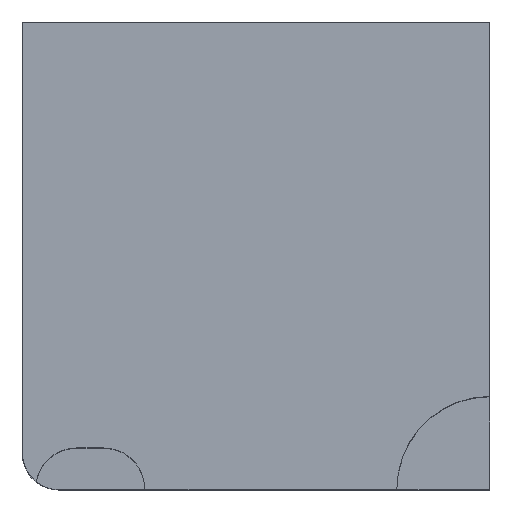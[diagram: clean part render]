
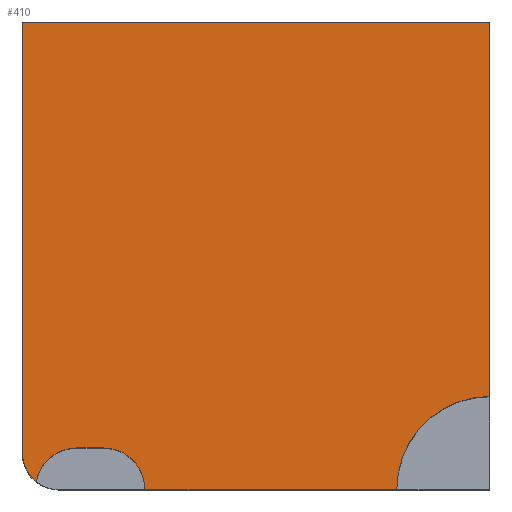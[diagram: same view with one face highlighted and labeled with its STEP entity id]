
A CAD part, top view. The second image highlights one B-rep face of the part: STEP entity #410.
In plain terms, the highlighted planar face has unit normal (0, 0, 1).
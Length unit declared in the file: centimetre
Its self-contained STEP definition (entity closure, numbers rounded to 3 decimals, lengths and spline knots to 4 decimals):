
#4 = CARTESIAN_POINT ( 'NONE',  ( 801.4128, 0., 1000. ) ) ;
#6 = ORIENTED_EDGE ( 'NONE', *, *, #327, .T. ) ;
#8 = CARTESIAN_POINT ( 'NONE',  ( 0., 0., 1000. ) ) ;
#19 = VERTEX_POINT ( 'NONE', #607 ) ;
#45 = VERTEX_POINT ( 'NONE', #144 ) ;
#47 = CIRCLE ( 'NONE', #433, 88.3035 ) ;
#49 = EDGE_CURVE ( 'NONE', #452, #19, #430, .T. ) ;
#50 = VERTEX_POINT ( 'NONE', #704 ) ;
#67 = DIRECTION ( 'NONE',  ( 0., 0., 1. ) ) ;
#69 = CIRCLE ( 'NONE', #658, 77.2143 ) ;
#120 = EDGE_CURVE ( 'NONE', #45, #568, #215, .T. ) ;
#144 = CARTESIAN_POINT ( 'NONE',  ( 262.0428, 0., 1000. ) ) ;
#147 = CARTESIAN_POINT ( 'NONE',  ( 0., 1000., 1000. ) ) ;
#186 = ORIENTED_EDGE ( 'NONE', *, *, #354, .T. ) ;
#210 = DIRECTION ( 'NONE',  ( 0., 0., 1. ) ) ;
#215 = LINE ( 'NONE', #8, #1143 ) ;
#231 = CIRCLE ( 'NONE', #349, 88.3035 ) ;
#253 = LINE ( 'NONE', #799, #748 ) ;
#288 = CARTESIAN_POINT ( 'NONE',  ( 116.1014, 0., 1000. ) ) ;
#292 = EDGE_CURVE ( 'NONE', #821, #913, #47, .T. ) ;
#295 = CARTESIAN_POINT ( 'NONE',  ( 173.7393, 0., 1000. ) ) ;
#305 = VERTEX_POINT ( 'NONE', #876 ) ;
#311 = ORIENTED_EDGE ( 'NONE', *, *, #638, .F. ) ;
#327 = EDGE_CURVE ( 'NONE', #19, #913, #69, .T. ) ;
#338 = AXIS2_PLACEMENT_3D ( 'NONE', #606, #67, #1064 ) ;
#347 = DIRECTION ( 'NONE',  ( 0., 0., 1. ) ) ;
#349 = AXIS2_PLACEMENT_3D ( 'NONE', #295, #210, #581 ) ;
#354 = EDGE_CURVE ( 'NONE', #750, #50, #948, .T. ) ;
#401 = ORIENTED_EDGE ( 'NONE', *, *, #120, .T. ) ;
#405 = AXIS2_PLACEMENT_3D ( 'NONE', #995, #347, #892 ) ;
#410 = ADVANCED_FACE ( 'NONE', ( #428 ), #880, .T. ) ;
#411 = CARTESIAN_POINT ( 'NONE',  ( 77.2143, 77.2143, 1000. ) ) ;
#424 = VECTOR ( 'NONE', #982, 100. ) ;
#428 = FACE_OUTER_BOUND ( 'NONE', #633, .T. ) ;
#430 = LINE ( 'NONE', #515, #562 ) ;
#433 = AXIS2_PLACEMENT_3D ( 'NONE', #288, #674, #665 ) ;
#443 = DIRECTION ( 'NONE',  ( -1., 0., 0. ) ) ;
#452 = VERTEX_POINT ( 'NONE', #147 ) ;
#478 = ORIENTED_EDGE ( 'NONE', *, *, #292, .F. ) ;
#479 = DIRECTION ( 'NONE',  ( 1., 0., 0. ) ) ;
#515 = CARTESIAN_POINT ( 'NONE',  ( 0., 1000., 1000. ) ) ;
#537 = CARTESIAN_POINT ( 'NONE',  ( 29.3735, 16.6065, 1000. ) ) ;
#562 = VECTOR ( 'NONE', #1072, 100. ) ;
#568 = VERTEX_POINT ( 'NONE', #4 ) ;
#581 = DIRECTION ( 'NONE',  ( 1., 0., 0. ) ) ;
#606 = CARTESIAN_POINT ( 'NONE',  ( 0., 0., 1000. ) ) ;
#607 = CARTESIAN_POINT ( 'NONE',  ( 0., 77.2143, 1000. ) ) ;
#615 = CARTESIAN_POINT ( 'NONE',  ( 1000., 198.5872, 1000. ) ) ;
#633 = EDGE_LOOP ( 'NONE', ( #887, #186, #1040, #1033, #6, #478, #827, #311, #401 ) ) ;
#638 = EDGE_CURVE ( 'NONE', #45, #305, #231, .T. ) ;
#658 = AXIS2_PLACEMENT_3D ( 'NONE', #411, #1024, #479 ) ;
#665 = DIRECTION ( 'NONE',  ( 1., 0., 0. ) ) ;
#674 = DIRECTION ( 'NONE',  ( 0., 0., 1. ) ) ;
#695 = DIRECTION ( 'NONE',  ( 0., 1., 0. ) ) ;
#701 = CARTESIAN_POINT ( 'NONE',  ( 0., 1000., 1000. ) ) ;
#704 = CARTESIAN_POINT ( 'NONE',  ( 1000., 1000., 1000. ) ) ;
#748 = VECTOR ( 'NONE', #443, 100. ) ;
#750 = VERTEX_POINT ( 'NONE', #615 ) ;
#786 = EDGE_CURVE ( 'NONE', #50, #452, #797, .T. ) ;
#797 = LINE ( 'NONE', #701, #424 ) ;
#799 = CARTESIAN_POINT ( 'NONE',  ( 173.7393, 88.3035, 1000. ) ) ;
#801 = VECTOR ( 'NONE', #695, 100. ) ;
#821 = VERTEX_POINT ( 'NONE', #1070 ) ;
#827 = ORIENTED_EDGE ( 'NONE', *, *, #906, .F. ) ;
#864 = EDGE_CURVE ( 'NONE', #750, #568, #916, .T. ) ;
#876 = CARTESIAN_POINT ( 'NONE',  ( 173.7393, 88.3035, 1000. ) ) ;
#880 = PLANE ( 'NONE',  #338 ) ;
#887 = ORIENTED_EDGE ( 'NONE', *, *, #864, .F. ) ;
#892 = DIRECTION ( 'NONE',  ( 1., 0., 0. ) ) ;
#906 = EDGE_CURVE ( 'NONE', #305, #821, #253, .T. ) ;
#913 = VERTEX_POINT ( 'NONE', #537 ) ;
#916 = CIRCLE ( 'NONE', #405, 198.5872 ) ;
#942 = DIRECTION ( 'NONE',  ( 1., 0., 0. ) ) ;
#948 = LINE ( 'NONE', #1076, #801 ) ;
#982 = DIRECTION ( 'NONE',  ( -1., 0., 0. ) ) ;
#995 = CARTESIAN_POINT ( 'NONE',  ( 1000., 0., 1000. ) ) ;
#1024 = DIRECTION ( 'NONE',  ( 0., 0., 1. ) ) ;
#1033 = ORIENTED_EDGE ( 'NONE', *, *, #49, .T. ) ;
#1040 = ORIENTED_EDGE ( 'NONE', *, *, #786, .T. ) ;
#1064 = DIRECTION ( 'NONE',  ( 1., 0., 0. ) ) ;
#1070 = CARTESIAN_POINT ( 'NONE',  ( 116.1014, 88.3035, 1000. ) ) ;
#1072 = DIRECTION ( 'NONE',  ( 0., -1., 0. ) ) ;
#1076 = CARTESIAN_POINT ( 'NONE',  ( 1000., 1000., 1000. ) ) ;
#1143 = VECTOR ( 'NONE', #942, 100. ) ;
